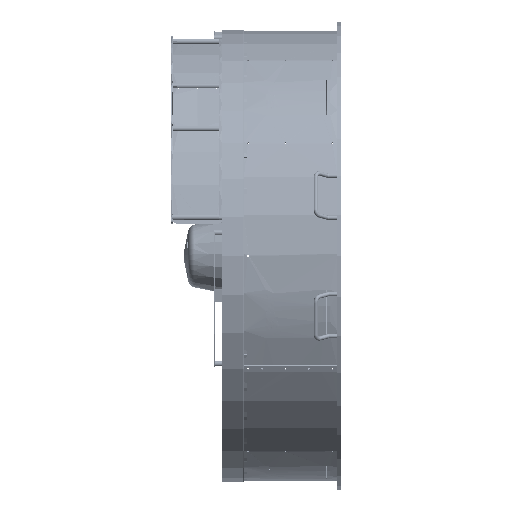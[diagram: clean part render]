
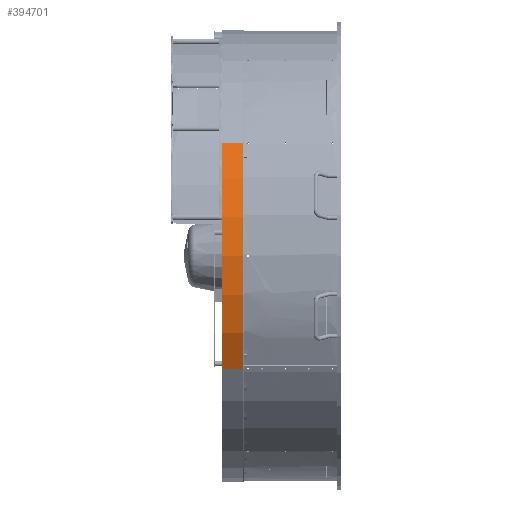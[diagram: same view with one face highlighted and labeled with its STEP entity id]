
A CAD part, left-side view. The second image highlights one B-rep face of the part: STEP entity #394701.
In plain terms, the highlighted cylindrical face has radius 622 mm (diameter 1244 mm), a partial arc.
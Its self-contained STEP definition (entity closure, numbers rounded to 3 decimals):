
#11067 = VERTEX_POINT ( 'NONE', #159430 ) ;
#33645 = CARTESIAN_POINT ( 'NONE',  ( 0., 0., 60. ) ) ;
#39055 = CARTESIAN_POINT ( 'NONE',  ( 311., -538.668, 60. ) ) ;
#45949 = CARTESIAN_POINT ( 'NONE',  ( 622., 0., 1. ) ) ;
#49584 = CIRCLE ( 'NONE', #325442, 622. ) ;
#86240 = CARTESIAN_POINT ( 'NONE',  ( 0., 0., 59. ) ) ;
#86704 = CARTESIAN_POINT ( 'NONE',  ( 311., -538.668, 1. ) ) ;
#103278 = LINE ( 'NONE', #39055, #283595 ) ;
#124053 = DIRECTION ( 'NONE',  ( -1., 0., 0. ) ) ;
#130210 = LINE ( 'NONE', #349050, #345163 ) ;
#144550 = DIRECTION ( 'NONE',  ( 0., 0., -1. ) ) ;
#153888 = ORIENTED_EDGE ( 'NONE', *, *, #182082, .T. ) ;
#159430 = CARTESIAN_POINT ( 'NONE',  ( 622., 0., 59. ) ) ;
#165371 = ORIENTED_EDGE ( 'NONE', *, *, #322242, .T. ) ;
#182082 = EDGE_CURVE ( 'NONE', #11067, #341626, #325189, .T. ) ;
#182314 = FACE_OUTER_BOUND ( 'NONE', #287835, .T. ) ;
#183476 = ORIENTED_EDGE ( 'NONE', *, *, #292767, .T. ) ;
#190445 = AXIS2_PLACEMENT_3D ( 'NONE', #86240, #144550, #329299 ) ;
#235559 = EDGE_CURVE ( 'NONE', #11067, #324662, #130210, .T. ) ;
#242549 = CYLINDRICAL_SURFACE ( 'NONE', #262666, 622. ) ;
#244539 = DIRECTION ( 'NONE',  ( 0., 0., -1. ) ) ;
#246254 = CARTESIAN_POINT ( 'NONE',  ( 0., 0., 1. ) ) ;
#255995 = CARTESIAN_POINT ( 'NONE',  ( 311., -538.668, 59. ) ) ;
#256671 = DIRECTION ( 'NONE',  ( 0., 0., -1. ) ) ;
#262666 = AXIS2_PLACEMENT_3D ( 'NONE', #33645, #244539, #124053 ) ;
#280370 = DIRECTION ( 'NONE',  ( 0., 0., 1. ) ) ;
#283595 = VECTOR ( 'NONE', #284091, 1000. ) ;
#284091 = DIRECTION ( 'NONE',  ( 0., 0., -1. ) ) ;
#287835 = EDGE_LOOP ( 'NONE', ( #289781, #153888, #165371, #183476 ) ) ;
#289781 = ORIENTED_EDGE ( 'NONE', *, *, #235559, .F. ) ;
#292767 = EDGE_CURVE ( 'NONE', #292802, #324662, #49584, .T. ) ;
#292802 = VERTEX_POINT ( 'NONE', #86704 ) ;
#322242 = EDGE_CURVE ( 'NONE', #341626, #292802, #103278, .T. ) ;
#324662 = VERTEX_POINT ( 'NONE', #45949 ) ;
#325189 = CIRCLE ( 'NONE', #190445, 622. ) ;
#325442 = AXIS2_PLACEMENT_3D ( 'NONE', #246254, #280370, #338679 ) ;
#329299 = DIRECTION ( 'NONE',  ( 1., 0., 0. ) ) ;
#338679 = DIRECTION ( 'NONE',  ( 1., 0., 0. ) ) ;
#341626 = VERTEX_POINT ( 'NONE', #255995 ) ;
#345163 = VECTOR ( 'NONE', #256671, 1000. ) ;
#349050 = CARTESIAN_POINT ( 'NONE',  ( 622., 0., 60. ) ) ;
#394701 = ADVANCED_FACE ( 'NONE', ( #182314 ), #242549, .T. ) ;
